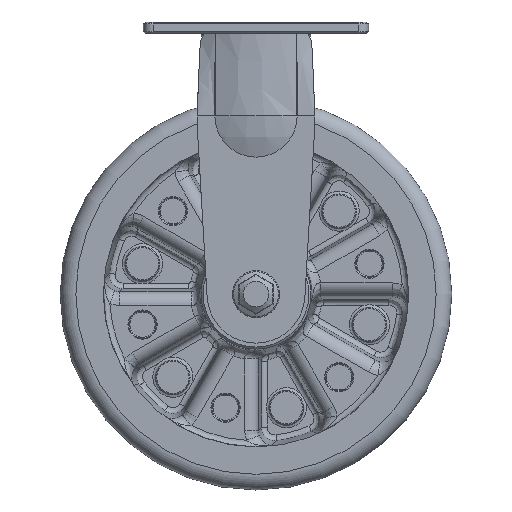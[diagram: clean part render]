
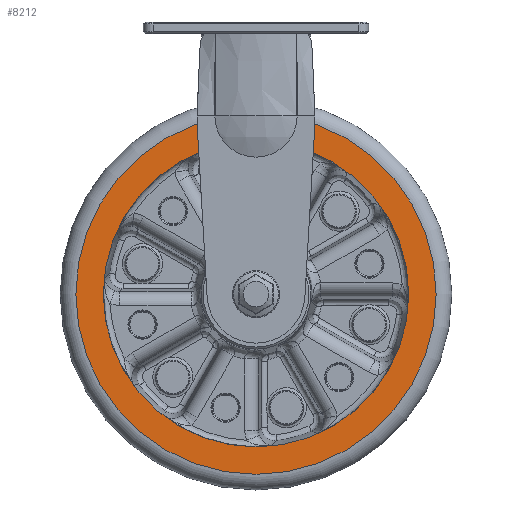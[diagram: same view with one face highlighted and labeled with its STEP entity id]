
A CAD part, front view. The second image highlights one B-rep face of the part: STEP entity #8212.
In plain terms, the highlighted planar face has unit normal (0, -1, 0).
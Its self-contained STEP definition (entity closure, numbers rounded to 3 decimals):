
#8185=CARTESIAN_POINT('',(157.662,412.714,-135.));
#8186=DIRECTION('',(0.0,-1.0,0.0));
#8187=DIRECTION('',(0.0,0.0,-1.0));
#8188=AXIS2_PLACEMENT_3D('',#8185,#8186,#8187);
#8189=PLANE('',#8188);
#8190=CARTESIAN_POINT('',(161.511,412.714,-135.));
#8191=VERTEX_POINT('',#8190);
#8192=CARTESIAN_POINT('',(69.511,412.714,-135.));
#8193=DIRECTION('',(0.0,-1.0,0.0));
#8194=DIRECTION('',(1.0,0.0,0.0));
#8195=AXIS2_PLACEMENT_3D('',#8192,#8193,#8194);
#8196=CIRCLE('',#8195,92.);
#8197=EDGE_CURVE('',#8191,#8191,#8196,.T.);
#8198=ORIENTED_EDGE('',*,*,#8197,.T.);
#8199=EDGE_LOOP('',(#8198));
#8200=FACE_OUTER_BOUND('',#8199,.T.);
#8201=CARTESIAN_POINT('',(-8.489,412.714,-135.));
#8202=VERTEX_POINT('',#8201);
#8203=CARTESIAN_POINT('',(69.511,412.714,-135.));
#8204=DIRECTION('',(0.0,1.0,0.0));
#8205=DIRECTION('',(-1.0,0.0,0.0));
#8206=AXIS2_PLACEMENT_3D('',#8203,#8204,#8205);
#8207=CIRCLE('',#8206,78.);
#8208=EDGE_CURVE('',#8202,#8202,#8207,.T.);
#8209=ORIENTED_EDGE('',*,*,#8208,.T.);
#8210=EDGE_LOOP('',(#8209));
#8211=FACE_BOUND('',#8210,.T.);
#8212=ADVANCED_FACE('',(#8200,#8211),#8189,.T.);
